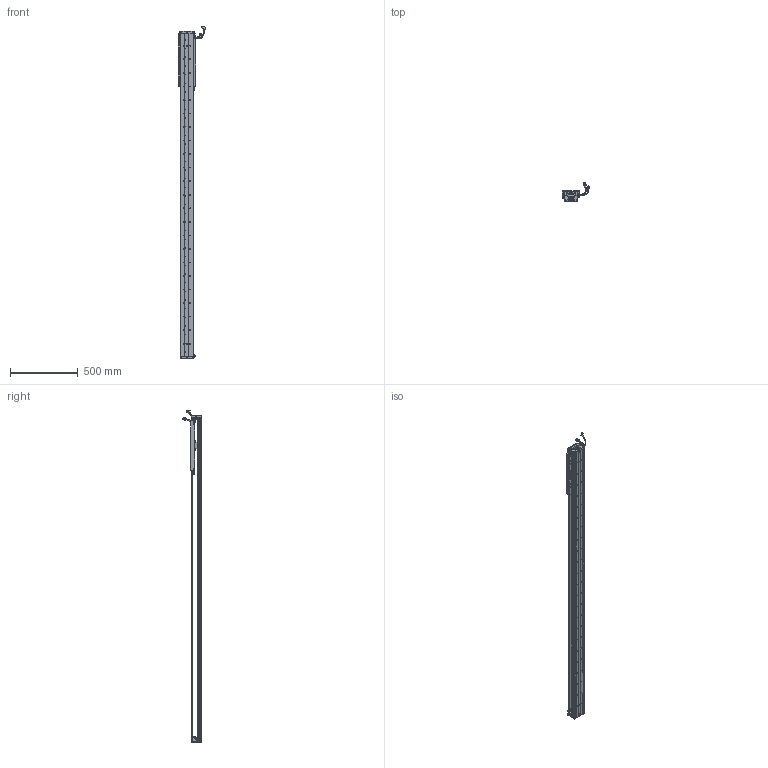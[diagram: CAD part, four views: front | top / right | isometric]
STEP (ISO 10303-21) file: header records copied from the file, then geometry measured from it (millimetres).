
FILE_DESCRIPTION (( 'STEP AP203' ), '1' );
FILE_NAME ('Z5-RY100D-1-L500-B-K.SLDASM_1950.step', '2021-05-17T03:34:17', ( '盈信电脑' ), ( '东莞市道滘镇水果街19号' ), 'SwSTEP 2.0', 'SolidWorks 2016', '' );
FILE_SCHEMA (( 'CONFIG_CONTROL_DESIGN' ));
Length unit declared in the file: millimetre
Products named in the file (36): Z5-RY100D-1-L500-B-K.SLDASM_1950; HARNESS-Part-2; 100-Z-臏賑輸盄裔(21遴); 榋妏寠巭燃_暯_M2_2; COVER; SCALE-Part-1; Z5-RY100铝滑块（21款）; HOLDER0; SCREW-M1.7; SEAL; SCREW-M1.6; 080黍杅芛假蚾釱21遴; SCALE-Part-2; 140雄赽晤鎢ん堤盄; HARNESS; Z-RY100D詩湍奻揤裔; SCREW-M1.6-1; COVER-Part-1; PBU_SHEET; Z-RY100D覜茼んえ; SCREW-M1.6-3; 覜茼ん672; SCREW-M1.6-2; 140蚥薯蝶輸; SCREW-M1.7-1; Z-RY100D詩湍狟揤裔; Z-100詩湍傷裔啣; SCALE; LABEL-Part-1; SHIELDPLATE; Z5-RY100-L500詩湍90mm遵_1950; Z5-RY100D-500-倰第菁釱_1950; PSLH080_PSLF2; LABEL; SEAL-Part-1; HARNESS-Part-1
Assembly tree (43 placements, depth 4):
  Z5-RY100D-1-L500-B-K.SLDASM_1950
    Z5-RY100D-500-倰第菁釱_1950
    Z5-RY100铝滑块（21款）
    PSLH080_PSLF2
      SCALE
        SCALE-Part-1
        SCALE-Part-2
      HARNESS
        HARNESS-Part-1
        HARNESS-Part-2
      LABEL
        LABEL-Part-1
      COVER
        COVER-Part-1
      SEAL
        SEAL-Part-1
      榋妏寠巭燃_暯_M2_2
      SHIELDPLATE
      SCREW-M1.7
      SCREW-M1.7-1
      PBU_SHEET
      SCREW-M1.6
      SCREW-M1.6-1
      SCREW-M1.6-2
      SCREW-M1.6-3
      HOLDER0
    080黍杅芛假蚾釱21遴
    Z-100詩湍傷裔啣  x2
    140蚥薯蝶輸  x2
    覜茼ん672  x3
    Z-RY100D覜茼んえ  x3
    100-Z-臏賑輸盄裔(21遴)
    140雄赽晤鎢ん堤盄
    Z5-RY100-L500詩湍90mm遵_1950
    Z-RY100D詩湍狟揤裔  x2
    Z-RY100D詩湍奻揤裔  x2
Bounding box: 205.84 x 136.11 x 2450.43 mm (x, y, z)
Volume: 4750638.8 mm3; surface area: 1830583.1 mm2
Topology: 38 solids, 38 shells, 2943 faces, 7981 edges, 5088 vertices
Faces by surface type: cylinder 1422, plane 1173, cone 226, torus 69, bspline 53
Entity records: 84403 total; most frequent: CARTESIAN_POINT 17671, DIRECTION 13587, ORIENTED_EDGE 12842, EDGE_CURVE 6421, AXIS2_PLACEMENT_3D 5096, VERTEX_POINT 4156, LINE 3395, VECTOR 3395
